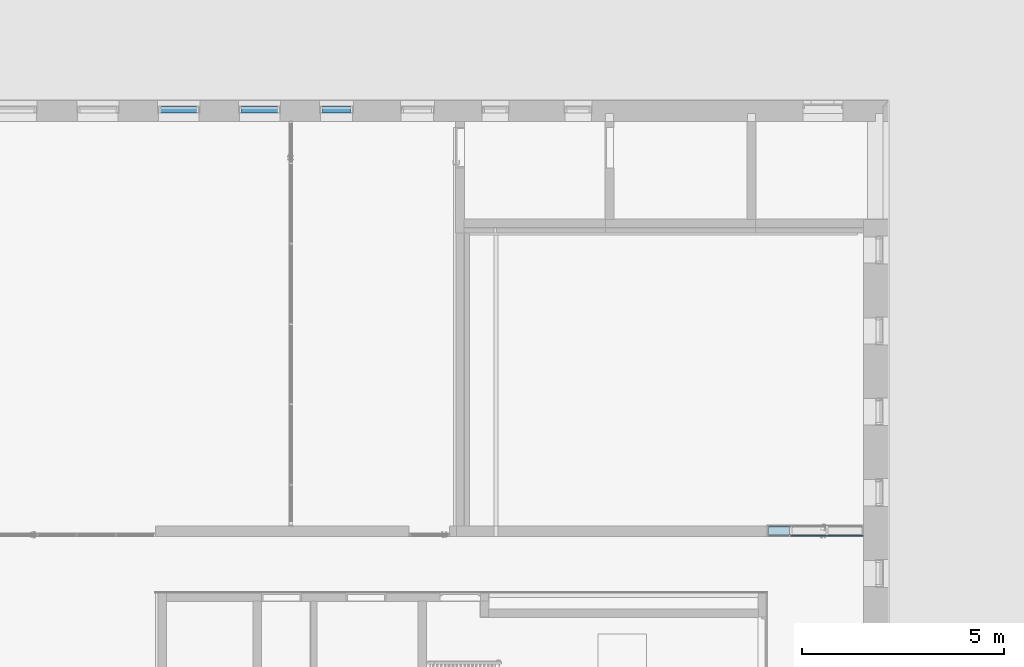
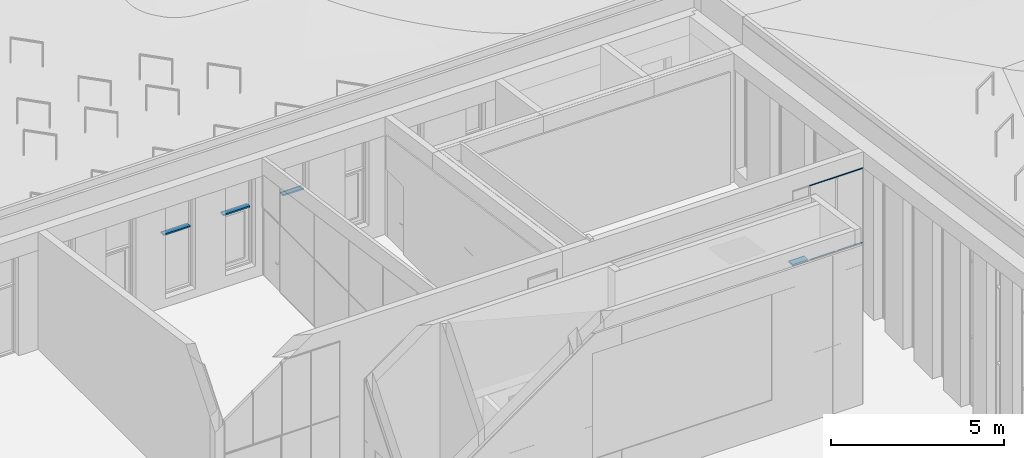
# One storey, part 91 of 246: 8 members, 5 elements without a shape of their own.
"""IFC2X3 building model written with IfcOpenShell, lengths in millimetres."""

import ifcopenshell
import ifcopenshell.guid

model = None  # the IFC model being written
_history = None  # IfcOwnerHistory: only IFC2X3 demands one
_inside = {}  # id of a spatial element -> (the spatial element, [elements in it])
_under = {}  # id of a project, library or spatial element -> (it, [spatial elements below it])
_declared = {}  # id of a project -> (the project, [libraries it declares])
_typed = {}  # id of a type object -> (the type object, [elements of that type])
_made_of = {}  # id of a material, layer set ... -> (it, [elements and type objects made of it])


def new_model(schema):
    """Start an empty IFC model of exactly this schema.

    Asked for "IFC4X3", IfcOpenShell would pick the latest addendum, in which some entities
    have other attributes; the version numbers below select the first issue.
    IFC2X3 requires an IfcOwnerHistory on every rooted entity: one is made here for all.
    """
    global model, _history
    if schema == "IFC4X3":
        model = ifcopenshell.file(schema_version=(4, 3, 0, 0))
    else:
        model = ifcopenshell.file(schema=schema)
    _inside.clear()
    _under.clear()
    _declared.clear()
    _typed.clear()
    _made_of.clear()
    _history = None
    if model.schema == "IFC2X3":
        org = make("IfcOrganization", Name="unknown")
        user = make(
            "IfcPersonAndOrganization",
            ThePerson=make("IfcPerson", FamilyName="unknown"),
            TheOrganization=org,
        )
        app = make(
            "IfcApplication",
            ApplicationDeveloper=org,
            Version="unknown",
            ApplicationFullName="unknown",
            ApplicationIdentifier="unknown",
        )
        _history = make(
            "IfcOwnerHistory",
            OwningUser=user,
            OwningApplication=app,
            ChangeAction="ADDED",
            CreationDate=0,
        )
    return model


def make(cls, **values):
    """One entity of the class cls with the attributes given. An attribute that is None is left unset."""
    return model.create_entity(
        cls, **{name: value for name, value in values.items() if value is not None}
    )


def entity(cls, *values):
    """Any entity or typed value of the class cls, its attributes in the order of the schema. None: left unset."""
    e = model.create_entity(cls)
    for i, value in enumerate(values):
        if value is not None:
            e[i] = value
    return e


def rooted(cls, **values):
    """An entity with a GlobalId (a new one), such as an element, a storey or a relation."""
    return make(cls, GlobalId=ifcopenshell.guid.new(), OwnerHistory=_history, **values)


def si_unit(unit_type, name, prefix=None):
    """IfcSIUnit, for example si_unit("LENGTHUNIT", "METRE", prefix="MILLI")."""
    return make("IfcSIUnit", UnitType=unit_type, Prefix=prefix, Name=name)


def converted_unit(unit_type, name, factor, base, dimensions=None, offset=None):
    """IfcConversionBasedUnit, such as the inch: factor (a typed value) times the base unit."""
    return make(
        "IfcConversionBasedUnit"
        if offset is None
        else "IfcConversionBasedUnitWithOffset",
        ConversionOffset=offset,
        Dimensions=None
        if dimensions is None
        else entity("IfcDimensionalExponents", *dimensions),
        UnitType=unit_type,
        Name=name,
        ConversionFactor=make(
            "IfcMeasureWithUnit", ValueComponent=factor, UnitComponent=base
        ),
    )


def derived_unit(unit_type, elements):
    """IfcDerivedUnit: a product of units, each with its exponent."""
    return make(
        "IfcDerivedUnit",
        Elements=[
            make("IfcDerivedUnitElement", Unit=unit, Exponent=power)
            for unit, power in elements
        ],
        UnitType=unit_type,
    )


def money_unit(currency):
    """IfcMonetaryUnit."""
    return make("IfcMonetaryUnit", Currency=currency)


def assignment(units):
    """IfcUnitAssignment: the units of a project."""
    return None if units is None else make("IfcUnitAssignment", Units=units)


def point(xyz):
    """IfcCartesianPoint."""
    return None if xyz is None else make("IfcCartesianPoint", Coordinates=xyz)


def direction(xyz):
    """IfcDirection."""
    return None if xyz is None else make("IfcDirection", DirectionRatios=xyz)


def frame(location, z_axis=None, x_axis=None):
    """IfcAxis2Placement3D, a coordinate frame: its origin and axes. An axis left out is left unset."""
    return make(
        "IfcAxis2Placement3D",
        Location=point(location),
        Axis=direction(z_axis),
        RefDirection=direction(x_axis),
    )


def origin_with_axes():
    """The frame at (0, 0, 0) with the z axis (0, 0, 1) and the x axis (1, 0, 0) written out."""
    return frame((0.0, 0.0, 0.0), z_axis=(0.0, 0.0, 1.0), x_axis=(1.0, 0.0, 0.0))


def place(relative_to, where):
    """IfcLocalPlacement: puts the frame where relative to a parent placement (None: the world)."""
    return make(
        "IfcLocalPlacement", PlacementRelTo=relative_to, RelativePlacement=where
    )


def context(
    kind, dimensions, precision=None, world=None, true_north=None, identifier=None
):
    """IfcGeometricRepresentationContext, for example the 3D "Model" context."""
    return make(
        "IfcGeometricRepresentationContext",
        ContextIdentifier=identifier,
        ContextType=kind,
        CoordinateSpaceDimension=dimensions,
        Precision=precision,
        WorldCoordinateSystem=world,
        TrueNorth=true_north,
    )


def subcontext(parent, identifier, kind, view, scale=None):
    """IfcGeometricRepresentationSubContext, for example "Body" below "Model"."""
    return make(
        "IfcGeometricRepresentationSubContext",
        ContextIdentifier=identifier,
        ContextType=kind,
        ParentContext=parent,
        TargetScale=scale,
        TargetView=view,
    )


def project(units=None, contexts=None):
    """IfcProject with its units and contexts."""
    return rooted(
        "IfcProject",
        Name="project",
        RepresentationContexts=contexts,
        UnitsInContext=assignment(units),
    )


def spatial(cls, under=None, at=None, **own):
    """A site, building, storey or space (cls), placed at a placement, below another one or the project."""
    s = rooted(cls, ObjectPlacement=at, **own)
    if under is not None:
        _under.setdefault(under.id(), (under, []))[1].append(s)
    return s


def faces_of(points, faces, orient=None, outer=None):
    """IfcFace entities. A face is a list of loops; a loop is a list of indices into points, from 0.

    orient and outer hold one flag for each loop. By default every Orientation is true, the
    first loop of a face is its IfcFaceOuterBound and the others are IfcFaceBound.
    """
    made = []
    for i, loops in enumerate(faces):
        bounds = []
        for j, loop in enumerate(loops):
            is_outer = j == 0 if outer is None else outer[i][j]
            bounds.append(
                make(
                    "IfcFaceOuterBound" if is_outer else "IfcFaceBound",
                    Bound=make("IfcPolyLoop", Polygon=[points[k] for k in loop]),
                    Orientation=True if orient is None else orient[i][j],
                )
            )
        made.append(make("IfcFace", Bounds=bounds))
    return made


def faceted_brep(points, faces, orient=None, outer=None, voids=None):
    """IfcFacetedBrep: a solid bounded by flat faces; with voids (closed shells), ...WithVoids."""
    shared = [point(p) for p in points]
    hull = make("IfcClosedShell", CfsFaces=faces_of(shared, faces, orient, outer))
    if voids is None:
        return make("IfcFacetedBrep", Outer=hull)
    return make(
        "IfcFacetedBrepWithVoids",
        Outer=hull,
        Voids=[
            make(cls, CfsFaces=faces_of(shared, fs, o, b)) for cls, fs, o, b in voids
        ],
    )


def shape(context_of_items, identifier, shape_type, items):
    """IfcShapeRepresentation: the items that make up one representation, for example the "Body"."""
    return make(
        "IfcShapeRepresentation",
        ContextOfItems=context_of_items,
        RepresentationIdentifier=identifier,
        RepresentationType=shape_type,
        Items=items,
    )


def material(Name=None, Category=None):
    """IfcMaterial."""
    return make("IfcMaterial", Name=Name, Category=Category)


def material_list(materials):
    """IfcMaterialList."""
    return make("IfcMaterialList", Materials=materials)


def made_of(thing, what):
    """Note that an element or type object is made of a material, layer set ...; save() writes the relation."""
    if what is not None:
        _made_of.setdefault(what.id(), (what, []))[1].append(thing)
    return thing


def type_object(cls, material=None, **own):
    """A type object (cls), such as IfcWallType, which elements share."""
    return made_of(rooted(cls, **own), material)


def element(
    cls,
    number,
    at=None,
    inside=None,
    cuts=None,
    type_object=None,
    material=None,
    context=None,
    identifier="Body",
    shape_type=None,
    held_by="IfcProductDefinitionShape",
    body=None,
    shapes=None,
    **own,
):
    """One element of the class cls, such as IfcWall. Its Tag is "e" and its number.

    at: its placement. inside: the storey or other place that contains it. cuts: it is an
    opening in that element (IfcRelVoidsElement). A single representation is given by context,
    identifier, shape_type and body (its items); several are given by shapes. held_by: the class
    of the entity that holds the representations. save() writes the other relations.
    """
    e = rooted(cls, Tag="e%d" % number, ObjectPlacement=at, **own)
    if body is not None:
        shapes = [shape(context, identifier, shape_type, body)]
    if shapes is not None:
        e.Representation = make(held_by, Representations=shapes)
    if inside is not None:
        _inside.setdefault(inside.id(), (inside, []))[1].append(e)
    if cuts is not None:
        rooted(
            "IfcRelVoidsElement", RelatingBuildingElement=cuts, RelatedOpeningElement=e
        )
    if type_object is not None:
        _typed.setdefault(type_object.id(), (type_object, []))[1].append(e)
    return made_of(e, material)


def aggregate(whole, parts):
    """IfcRelAggregates: a whole, such as a stair, and the parts it consists of."""
    return rooted("IfcRelAggregates", RelatingObject=whole, RelatedObjects=parts)


def save(model, path):
    """Write the relations noted so far, then the file.

    IfcRelAggregates (storeys below a building ...), IfcRelContainedInSpatialStructure (elements
    in a storey), IfcRelDefinesByType, IfcRelAssociatesMaterial and IfcRelDeclares: one each for
    every whole, place, type object, material and project.
    """
    for whole, parts in _under.values():
        aggregate(whole, parts)
    for where, things in _inside.values():
        rooted(
            "IfcRelContainedInSpatialStructure",
            RelatedElements=things,
            RelatingStructure=where,
        )
    for kind, things in _typed.values():
        rooted("IfcRelDefinesByType", RelatedObjects=things, RelatingType=kind)
    for what, things in _made_of.values():
        rooted("IfcRelAssociatesMaterial", RelatedObjects=things, RelatingMaterial=what)
    for by, libraries in _declared.values():
        rooted("IfcRelDeclares", RelatingContext=by, RelatedDefinitions=libraries)
    model.write(path)


model = new_model("IFC2X3")

# Units and contexts
model_context = context("Model", 3, precision=0.01, world=origin_with_axes(), true_north=direction((0.0, 1.0)))
body_context = subcontext(model_context, "Body", "Model", "MODEL_VIEW")
ifc_project = project(units=[si_unit("LENGTHUNIT", "METRE", prefix="MILLI"), si_unit("AREAUNIT", "SQUARE_METRE"), si_unit("VOLUMEUNIT", "CUBIC_METRE"), converted_unit("PLANEANGLEUNIT", "DEGREE", entity("IfcPlaneAngleMeasure", 0.0174532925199), si_unit("PLANEANGLEUNIT", "RADIAN"), dimensions=[0, 0, 0, 0, 0, 0, 0]), si_unit("SOLIDANGLEUNIT", "STERADIAN"), money_unit("EUR"), converted_unit("TIMEUNIT", "Year", entity("IfcTimeMeasure", 31556926.0), si_unit("TIMEUNIT", "SECOND"), dimensions=[0, 0, 1, 0, 0, 0, 0]), si_unit("MASSUNIT", "GRAM", prefix="KILO"), si_unit("THERMODYNAMICTEMPERATUREUNIT", "DEGREE_CELSIUS"), si_unit("LUMINOUSINTENSITYUNIT", "LUMEN"), si_unit("ENERGYUNIT", "JOULE", prefix="MEGA"), derived_unit("THERMALCONDUCTANCEUNIT", [(si_unit("POWERUNIT", "WATT"), 1), (si_unit("LENGTHUNIT", "METRE"), -1), (si_unit("THERMODYNAMICTEMPERATUREUNIT", "KELVIN"), -1)]), derived_unit("SPECIFICHEATCAPACITYUNIT", [(si_unit("ENERGYUNIT", "JOULE"), 1), (si_unit("MASSUNIT", "GRAM", prefix="KILO"), -1), (si_unit("THERMODYNAMICTEMPERATUREUNIT", "KELVIN"), -1)]), derived_unit("MASSDENSITYUNIT", [(si_unit("MASSUNIT", "GRAM", prefix="KILO"), 1), (si_unit("VOLUMEUNIT", "CUBIC_METRE"), -1)])], contexts=[model_context])

# Site, building, storey
site_placement = place(None, origin_with_axes())
site = spatial("IfcSite", under=ifc_project, at=site_placement, Name="L.Koidula tn 11b", CompositionType="ELEMENT")
building_placement = place(site_placement, origin_with_axes())
building = spatial("IfcBuilding", under=site, at=building_placement, Name="Rakvere Riigigümnaasium", CompositionType="ELEMENT")
storey_placement = place(building_placement, origin_with_axes())
storey = spatial("IfcBuildingStorey", under=building, at=storey_placement, Name="1.korrus 0,00", CompositionType="ELEMENT", Elevation=0.0)

# Curtain wall, member
curtain_wall_type = type_object("IfcCurtainWallType", Name="Curtain Wall Type", PredefinedType="NOTDEFINED")
curtain_wall_1_placement = place(storey_placement, frame((32069.763958, 71934.4519938, 400.0), z_axis=(0.0, 0.0, 1.0), x_axis=(1.0, 0.0, 0.0)))
curtain_wall_1 = element("IfcCurtainWall", 1, at=curtain_wall_1_placement, inside=storey, type_object=curtain_wall_type, Name="KLF-08-06")
ifc_material_1 = material(Name="Alumiiniumprofiil (RAL 7021)")
member_type_1 = type_object("IfcMemberType", Name="Transom Frame 50 x 170", PredefinedType="MULLION")
member_1_placement = place(curtain_wall_1_placement, frame((-500.007691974, 0.0, 2000.00007713), z_axis=(1.0, 0.0, 0.0), x_axis=(0.0, 0.0, 1.0)))
member_1 = element("IfcMember", 2, at=member_1_placement, type_object=member_type_1, material=ifc_material_1, Name="KLF-08-23-Profiilid", ObjectType="MULLION", context=body_context, shape_type="Brep", body=[
    faceted_brep([(-12.0, 26.0, 950.015387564), (-12.0, -26.0, 950.015388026), (-25.0, -26.0, 950.015388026), (-25.0, -46.0, 950.015388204), (25.0, -46.0, 950.015388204), (25.0, -26.0, 950.015388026), (12.0, -26.0, 950.015388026), (12.0, 26.0, 950.015387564), (25.0, 26.0, 950.015387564), (25.0, 124.0, 950.015386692), (-25.0, 124.0, 950.015386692), (-25.0, 26.0, 950.015387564), (-12.0, 26.0, 50.0000001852), (-12.0, -26.0, 49.9999998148), (-25.0, -26.0, 49.9999998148), (-25.0, -46.0, 49.9999996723), (25.0, -46.0, 49.9999996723), (25.0, -26.0, 49.9999998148), (12.0, -26.0, 49.9999998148), (12.0, 26.0, 50.0000001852), (25.0, 26.0, 50.0000001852), (25.0, 124.0, 50.0000008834), (-25.0, 124.0, 50.0000008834), (-25.0, 26.0, 50.0000001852)], [[[0, 1, 2, 3, 4, 5, 6, 7, 8, 9, 10, 11]], [[0, 12, 13, 1]], [[1, 13, 14, 2]], [[14, 15, 3, 2]], [[4, 3, 15, 16]], [[17, 5, 4, 16]], [[5, 17, 18, 6]], [[7, 6, 18, 19]], [[8, 7, 19, 20]], [[8, 20, 21, 9]], [[10, 9, 21, 22]], [[11, 10, 22, 23]], [[11, 23, 12, 0]], [[13, 12, 23, 22, 21, 20, 19, 18, 17, 16, 15, 14]]]),
])
aggregate(curtain_wall_1, [member_1])

curtain_wall_2_placement = place(storey_placement, frame((30069.5242165, 71934.4519938, 300.0), z_axis=(0.0, 0.0, 1.0), x_axis=(1.0, 0.0, 0.0)))
curtain_wall_2 = element("IfcCurtainWall", 3, at=curtain_wall_2_placement, inside=storey, type_object=curtain_wall_type, Name="KLF-08-05")
member_2_placement = place(curtain_wall_2_placement, frame((-499.988788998, 0.0, 2100.00007713), z_axis=(1.0, 0.0, 0.0), x_axis=(0.0, 0.0, 1.0)))
member_2 = element("IfcMember", 4, at=member_2_placement, type_object=member_type_1, material=ifc_material_1, Name="KLF-08-89-Profiilid", ObjectType="MULLION", context=body_context, shape_type="Brep", body=[
    faceted_brep([(-12.0, 26.0, 949.977577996), (-12.0, -26.0, 949.977577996), (-25.0, -26.0, 949.977577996), (-25.0, -46.0, 949.977577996), (25.0, -46.0, 949.977577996), (25.0, -26.0, 949.977577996), (12.0, -26.0, 949.977577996), (12.0, 26.0, 949.977577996), (25.0, 26.0, 949.977577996), (25.0, 124.0, 949.977577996), (-25.0, 124.0, 949.977577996), (-25.0, 26.0, 949.977577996), (-12.0, 26.0, 50.0), (-12.0, -26.0, 50.0), (-25.0, -26.0, 50.0), (-25.0, -46.0, 50.0), (25.0, -46.0, 50.0), (25.0, -26.0, 50.0), (12.0, -26.0, 50.0), (12.0, 26.0, 50.0), (25.0, 26.0, 50.0), (25.0, 124.0, 50.0), (-25.0, 124.0, 50.0), (-25.0, 26.0, 50.0)], [[[0, 1, 2, 3, 4, 5, 6, 7, 8, 9, 10, 11]], [[0, 12, 13, 1]], [[1, 13, 14, 2]], [[14, 15, 3, 2]], [[4, 3, 15, 16]], [[17, 5, 4, 16]], [[5, 17, 18, 6]], [[7, 6, 18, 19]], [[8, 7, 19, 20]], [[8, 20, 21, 9]], [[10, 9, 21, 22]], [[11, 10, 22, 23]], [[11, 23, 12, 0]], [[13, 12, 23, 22, 21, 20, 19, 18, 17, 16, 15, 14]]]),
])
aggregate(curtain_wall_2, [member_2])

curtain_wall_3_placement = place(storey_placement, frame((33969.5426693, 71934.5046172, 450.0), z_axis=(0.0, 0.0, 1.0), x_axis=(1.0, 0.0, 0.0)))
curtain_wall_3 = element("IfcCurtainWall", 5, at=curtain_wall_3_placement, inside=storey, type_object=curtain_wall_type, Name="KLF-08-07")
member_3_placement = place(curtain_wall_3_placement, frame((-400.003572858, 0.0, 1950.00010267), z_axis=(1.0, 0.0, 0.0), x_axis=(0.0, 0.0, 1.0)))
member_3 = element("IfcMember", 6, at=member_3_placement, type_object=member_type_1, material=ifc_material_1, Name="KLF-08-34-Profiilid", ObjectType="MULLION", context=body_context, shape_type="Brep", body=[
    faceted_brep([(-12.0, 26.0, 750.007138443), (-12.0, -26.0, 750.007138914), (-25.0, -26.0, 750.007138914), (-25.0, -46.0, 750.007139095), (25.0, -46.0, 750.007139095), (25.0, -26.0, 750.007138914), (12.0, -26.0, 750.007138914), (12.0, 26.0, 750.007138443), (25.0, 26.0, 750.007138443), (25.0, 124.0, 750.007137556), (-25.0, 124.0, 750.007137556), (-25.0, 26.0, 750.007138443), (-12.0, 26.0, 50.0), (-12.0, -26.0, 50.0), (-25.0, -26.0, 50.0), (-25.0, -46.0, 50.0), (25.0, -46.0, 50.0), (25.0, -26.0, 50.0), (12.0, -26.0, 50.0), (12.0, 26.0, 50.0), (25.0, 26.0, 50.0), (25.0, 124.0, 50.0), (-25.0, 124.0, 50.0), (-25.0, 26.0, 50.0)], [[[0, 1, 2, 3, 4, 5, 6, 7, 8, 9, 10, 11]], [[0, 12, 13, 1]], [[1, 13, 14, 2]], [[14, 15, 3, 2]], [[4, 3, 15, 16]], [[17, 5, 4, 16]], [[5, 17, 18, 6]], [[7, 6, 18, 19]], [[8, 7, 19, 20]], [[8, 20, 21, 9]], [[10, 9, 21, 22]], [[11, 10, 22, 23]], [[11, 23, 12, 0]], [[13, 12, 23, 22, 21, 20, 19, 18, 17, 16, 15, 14]]]),
])
aggregate(curtain_wall_3, [member_3])

# Curtain wall, members
curtain_wall_4_placement = place(storey_placement, frame((46459.9999921, 61346.4546496, -4.47035262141e-05), z_axis=(0.0, 0.0, 1.0), x_axis=(1.0, 0.0, 0.0)))
curtain_wall_4 = element("IfcCurtainWall", 7, at=curtain_wall_4_placement, inside=storey, type_object=curtain_wall_type, Name="SKLF-04")
ifc_material_2 = material(Name="Klaasvill")
ifc_material_3 = material(Name="Teras RAL7012")
ifc_material_list_1 = material_list([ifc_material_2, ifc_material_3])
member_type_2 = type_object("IfcMemberType", Name="Siseklaasfassaad-Doubleline-Servaraam-2_30x26 30 x 15", PredefinedType="MULLION")
member_4_placement = place(curtain_wall_4_placement, frame((-1260.00000095, 0.0, 2400.0000447), z_axis=(1.0, 0.0, 0.0), x_axis=(0.0, 0.0, 1.0)))
member_4 = element("IfcMember", 8, at=member_4_placement, type_object=member_type_2, material=ifc_material_list_1, Name="P-SKLF-38-raam", ObjectType="MULLION", context=body_context, shape_type="Brep", body=[
    faceted_brep([(8.35001923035, -16.999999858, 8.35001923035), (8.35001923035, -16.999999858, 891.64998077), (2.00001916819, -16.999999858, 897.999980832), (2.00001916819, -16.999999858, 2.00001916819), (8.35001923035, 3.01614428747, 8.35001923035), (8.35001923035, 3.01614428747, 891.64998077), (2.00001916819, 3.01614428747, 897.999980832), (2.00001916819, 3.01614428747, 2.00001916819)], [[[0, 1, 2, 3]], [[4, 5, 1, 0]], [[2, 1, 5, 6]], [[3, 2, 6, 7]], [[3, 7, 4, 0]], [[7, 6, 5, 4]]]),
    faceted_brep([(25.004489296, 1.03075035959, 25.004489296), (25.004489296, 1.03075035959, 874.995510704), (24.987414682, 3.01614444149, 875.012585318), (24.987414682, 3.01614444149, 24.987414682), (25.742237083, 0.293002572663, 25.742237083), (25.742237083, 0.293002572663, 874.257762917), (26.7500193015, 0.0229681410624, 873.249980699), (27.75780152, 0.293002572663, 872.24219848), (28.4955493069, 1.03075035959, 871.504450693), (28.7655837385, 2.03853257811, 871.234416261), (28.5126239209, 3.01614444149, 871.487376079), (28.5126239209, 3.01614444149, 28.5126239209), (28.7655837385, 2.03853257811, 28.7655837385), (28.4955493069, 1.03075035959, 28.4955493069), (27.75780152, 0.293002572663, 27.75780152), (26.7500193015, 0.0229681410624, 26.7500193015)], [[[0, 1, 2, 3]], [[4, 5, 1, 0]], [[2, 1, 5, 6, 7, 8, 9, 10]], [[3, 2, 10, 11]], [[3, 11, 12, 13, 14, 15, 4, 0]], [[15, 6, 5, 4]], [[14, 7, 6, 15]], [[13, 8, 7, 14]], [[12, 9, 8, 13]], [[11, 10, 9, 12]]]),
    faceted_brep([(30.0000193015, -20.0, 30.0000193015), (30.0000193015, -20.0, 869.999980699), (0.0, -20.0, 900.0), (0.0, -20.0, 0.0), (30.0000193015, -17.0, 30.0000193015), (30.0000193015, -17.0, 869.999980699), (8.35001923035, -16.999999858, 891.64998077), (2.00001930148, -17.0, 897.999980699), (2.00001930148, 3.01614444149, 897.999980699), (8.35001923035, 3.01614428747, 891.64998077), (24.987414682, 3.01614444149, 875.012585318), (28.5126239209, 3.01614444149, 871.487376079), (30.0000193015, 3.01614444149, 869.999980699), (30.0000193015, 6.0, 869.999980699), (0.0, 6.0, 900.0), (0.0, 6.0, 0.0), (30.0000193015, 6.0, 30.0000193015), (30.0000193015, 3.01614444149, 30.0000193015), (28.5126239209, 3.01614444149, 28.5126239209), (24.987414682, 3.01614444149, 24.987414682), (8.35001923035, 3.01614428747, 8.35001923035), (2.00001930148, 3.01614444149, 2.00001930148), (2.00001930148, -17.0, 2.00001930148), (8.35001923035, -16.999999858, 8.35001923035)], [[[0, 1, 2, 3]], [[4, 5, 1, 0]], [[2, 1, 5, 6, 7, 8, 9, 10, 11, 12, 13, 14]], [[3, 2, 14, 15]], [[3, 15, 16, 17, 18, 19, 20, 21, 22, 23, 4, 0]], [[23, 6, 5, 4]], [[22, 7, 6, 23]], [[21, 8, 7, 22]], [[20, 9, 8, 21]], [[19, 10, 9, 20]], [[18, 11, 10, 19]], [[17, 12, 11, 18]], [[16, 13, 12, 17]], [[15, 14, 13, 16]]]),
])
member_5_placement = place(curtain_wall_4_placement, frame((-360.00000095, 0.0, 2400.0000447), z_axis=(1.0, 0.0, 0.0), x_axis=(0.0, 0.0, 1.0)))
member_5 = element("IfcMember", 9, at=member_5_placement, type_object=member_type_2, material=ifc_material_list_1, Name="P-SKLF-41-raam", ObjectType="MULLION", context=body_context, shape_type="Brep", body=[
    faceted_brep([(8.35001923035, -16.999999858, 8.35001923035), (8.35001923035, -16.999999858, 869.999983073), (2.00001916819, -16.999999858, 869.999983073), (2.00001916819, -16.999999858, 2.00001916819), (8.35001923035, 3.01614428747, 8.35001923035), (8.35001923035, 3.01614428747, 869.999983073), (2.00001916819, 3.01614428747, 869.999983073), (2.00001916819, 3.01614428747, 2.00001916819)], [[[0, 1, 2, 3]], [[4, 5, 1, 0]], [[2, 1, 5, 6]], [[3, 2, 6, 7]], [[3, 7, 4, 0]], [[7, 6, 5, 4]]]),
    faceted_brep([(25.004489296, 1.03075035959, 25.004489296), (25.004489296, 1.03075035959, 869.999983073), (24.987414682, 3.01614444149, 869.999983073), (24.987414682, 3.01614444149, 24.987414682), (25.742237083, 0.293002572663, 25.742237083), (25.742237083, 0.293002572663, 869.999983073), (26.7500193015, 0.0229681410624, 869.999983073), (27.75780152, 0.293002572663, 869.999983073), (28.4955493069, 1.03075035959, 869.999983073), (28.7655837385, 2.03853257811, 869.999983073), (28.5126239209, 3.01614444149, 869.999983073), (28.5126239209, 3.01614444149, 28.5126239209), (28.7655837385, 2.03853257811, 28.7655837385), (28.4955493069, 1.03075035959, 28.4955493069), (27.75780152, 0.293002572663, 27.75780152), (26.7500193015, 0.0229681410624, 26.7500193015)], [[[0, 1, 2, 3]], [[4, 5, 1, 0]], [[2, 1, 5, 6, 7, 8, 9, 10]], [[3, 2, 10, 11]], [[3, 11, 12, 13, 14, 15, 4, 0]], [[15, 6, 5, 4]], [[14, 7, 6, 15]], [[13, 8, 7, 14]], [[12, 9, 8, 13]], [[11, 10, 9, 12]]]),
    faceted_brep([(30.0000193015, -20.0, 30.0000193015), (30.0000193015, -20.0, 869.999983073), (0.0, -20.0, 869.999983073), (0.0, -20.0, 0.0), (30.0000193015, -17.0, 30.0000193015), (30.0000193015, -17.0, 869.999983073), (8.35001923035, -16.999999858, 869.999983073), (2.00001930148, -17.0, 869.999983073), (2.00001930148, 3.01614444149, 869.999983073), (8.35001923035, 3.01614428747, 869.999983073), (24.987414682, 3.01614444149, 869.999983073), (28.5126239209, 3.01614444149, 869.999983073), (30.0000193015, 3.01614444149, 869.999983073), (30.0000193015, 6.0, 869.999983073), (0.0, 6.0, 869.999983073), (0.0, 6.0, 0.0), (30.0000193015, 6.0, 30.0000193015), (30.0000193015, 3.01614444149, 30.0000193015), (28.5126239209, 3.01614444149, 28.5126239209), (24.987414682, 3.01614444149, 24.987414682), (8.35001923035, 3.01614428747, 8.35001923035), (2.00001930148, 3.01614444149, 2.00001930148), (2.00001930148, -17.0, 2.00001930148), (8.35001923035, -16.999999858, 8.35001923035)], [[[0, 1, 2, 3]], [[4, 5, 1, 0]], [[2, 1, 5, 6, 7, 8, 9, 10, 11, 12, 13, 14]], [[3, 2, 14, 15]], [[3, 15, 16, 17, 18, 19, 20, 21, 22, 23, 4, 0]], [[23, 6, 5, 4]], [[22, 7, 6, 23]], [[21, 8, 7, 22]], [[20, 9, 8, 21]], [[19, 10, 9, 20]], [[18, 11, 10, 19]], [[17, 12, 11, 18]], [[16, 13, 12, 17]], [[15, 14, 13, 16]]]),
])
member_type_3 = type_object("IfcMemberType", Name="Boundary Frame 30 x 15", PredefinedType="MULLION")
member_6_placement = place(curtain_wall_4_placement, frame((-360.00000095, 0.0, 5050.0000447), z_axis=(1.0, 0.0, 0.0), x_axis=(0.0, 0.0, 1.0)))
member_6 = element("IfcMember", 10, at=member_6_placement, type_object=member_type_3, material=ifc_material_list_1, Name="P-SKLF-39-raam", ObjectType="MULLION", context=body_context, shape_type="Brep", body=[
    faceted_brep([(-2.00001916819, -16.999999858, 0.0), (-2.00001916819, -16.999999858, 897.999983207), (-8.35001923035, -16.999999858, 891.649983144), (-8.35001923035, -16.999999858, 0.0), (-2.00001916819, 3.01614428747, 0.0), (-2.00001916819, 3.01614428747, 897.999983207), (-8.35001923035, 3.01614428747, 891.649983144), (-8.35001923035, 3.01614428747, 0.0)], [[[0, 1, 2, 3]], [[4, 5, 1, 0]], [[1, 5, 6, 2]], [[3, 2, 6, 7]], [[0, 3, 7, 4]], [[7, 6, 5, 4]]]),
    faceted_brep([(-24.987414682, 3.01614444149, 0.0), (-24.987414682, 3.01614444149, 875.012587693), (-25.004489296, 1.03075035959, 874.995513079), (-25.004489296, 1.03075035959, 0.0), (-28.5126239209, 3.01614444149, 0.0), (-28.5126239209, 3.01614444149, 871.487378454), (-28.7655837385, 2.03853257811, 871.234418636), (-28.4955493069, 1.03075035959, 871.504453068), (-27.75780152, 0.293002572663, 872.242200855), (-26.7500193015, 0.0229681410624, 873.249983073), (-25.742237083, 0.293002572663, 874.257765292), (-25.742237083, 0.293002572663, 0.0), (-26.7500193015, 0.0229681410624, 0.0), (-27.75780152, 0.293002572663, 0.0), (-28.4955493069, 1.03075035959, 0.0), (-28.7655837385, 2.03853257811, 0.0)], [[[0, 1, 2, 3]], [[4, 5, 1, 0]], [[1, 5, 6, 7, 8, 9, 10, 2]], [[3, 2, 10, 11]], [[0, 3, 11, 12, 13, 14, 15, 4]], [[15, 6, 5, 4]], [[14, 7, 6, 15]], [[13, 8, 7, 14]], [[12, 9, 8, 13]], [[11, 10, 9, 12]]]),
    faceted_brep([(0.0, -20.0, 0.0), (0.0, -20.0, 900.000002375), (-30.0000193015, -20.0, 869.999983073), (-30.0000193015, -20.0, 0.0), (0.0, 6.0, 0.0), (0.0, 6.0, 900.000002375), (-30.0000193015, 6.0, 869.999983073), (-30.0000193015, 3.01614444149, 869.999983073), (-28.5126239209, 3.01614444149, 871.487378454), (-24.987414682, 3.01614444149, 875.012587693), (-8.35001923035, 3.01614428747, 891.649983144), (-2.00001930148, 3.01614444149, 897.999983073), (-2.00001930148, -17.0, 897.999983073), (-8.35001923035, -16.999999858, 891.649983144), (-30.0000193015, -17.0, 869.999983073), (-30.0000193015, -17.0, 0.0), (-8.35001923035, -16.999999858, 0.0), (-2.00001930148, -17.0, 0.0), (-2.00001930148, 3.01614444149, 0.0), (-8.35001923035, 3.01614428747, 0.0), (-24.987414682, 3.01614444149, 0.0), (-28.5126239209, 3.01614444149, 0.0), (-30.0000193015, 3.01614444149, 0.0), (-30.0000193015, 6.0, 0.0)], [[[0, 1, 2, 3]], [[4, 5, 1, 0]], [[1, 5, 6, 7, 8, 9, 10, 11, 12, 13, 14, 2]], [[3, 2, 14, 15]], [[0, 3, 15, 16, 17, 18, 19, 20, 21, 22, 23, 4]], [[23, 6, 5, 4]], [[22, 7, 6, 23]], [[21, 8, 7, 22]], [[20, 9, 8, 21]], [[19, 10, 9, 20]], [[18, 11, 10, 19]], [[17, 12, 11, 18]], [[16, 13, 12, 17]], [[15, 14, 13, 16]]]),
])
member_7_placement = place(curtain_wall_4_placement, frame((-1260.00000095, 0.0, 5050.0000447), z_axis=(1.0, 0.0, 0.0), x_axis=(0.0, 0.0, 1.0)))
member_7 = element("IfcMember", 11, at=member_7_placement, type_object=member_type_3, material=ifc_material_list_1, Name="P-SKLF-40-raam", ObjectType="MULLION", context=body_context, shape_type="Brep", body=[
    faceted_brep([(-2.00001916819, -16.999999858, 0.0), (-2.00001916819, -16.999999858, 900.0), (-8.35001923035, -16.999999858, 900.0), (-8.35001923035, -16.999999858, 0.0), (-2.00001916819, 3.01614428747, 0.0), (-2.00001916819, 3.01614428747, 900.0), (-8.35001923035, 3.01614428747, 900.0), (-8.35001923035, 3.01614428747, 0.0)], [[[0, 1, 2, 3]], [[4, 5, 1, 0]], [[1, 5, 6, 2]], [[3, 2, 6, 7]], [[0, 3, 7, 4]], [[7, 6, 5, 4]]]),
    faceted_brep([(-24.987414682, 3.01614444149, 0.0), (-24.987414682, 3.01614444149, 900.0), (-25.004489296, 1.03075035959, 900.0), (-25.004489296, 1.03075035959, 0.0), (-28.5126239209, 3.01614444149, 0.0), (-28.5126239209, 3.01614444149, 900.0), (-28.7655837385, 2.03853257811, 900.0), (-28.4955493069, 1.03075035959, 900.0), (-27.75780152, 0.293002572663, 900.0), (-26.7500193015, 0.0229681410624, 900.0), (-25.742237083, 0.293002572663, 900.0), (-25.742237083, 0.293002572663, 0.0), (-26.7500193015, 0.0229681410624, 0.0), (-27.75780152, 0.293002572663, 0.0), (-28.4955493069, 1.03075035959, 0.0), (-28.7655837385, 2.03853257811, 0.0)], [[[0, 1, 2, 3]], [[4, 5, 1, 0]], [[1, 5, 6, 7, 8, 9, 10, 2]], [[3, 2, 10, 11]], [[0, 3, 11, 12, 13, 14, 15, 4]], [[15, 6, 5, 4]], [[14, 7, 6, 15]], [[13, 8, 7, 14]], [[12, 9, 8, 13]], [[11, 10, 9, 12]]]),
    faceted_brep([(0.0, -20.0, 0.0), (0.0, -20.0, 900.0), (-30.0000193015, -20.0, 900.0), (-30.0000193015, -20.0, 0.0), (0.0, 6.0, 0.0), (0.0, 6.0, 900.0), (-30.0000193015, 6.0, 900.0), (-30.0000193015, 3.01614444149, 900.0), (-28.5126239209, 3.01614444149, 900.0), (-24.987414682, 3.01614444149, 900.0), (-8.35001923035, 3.01614428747, 900.0), (-2.00001930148, 3.01614444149, 900.0), (-2.00001930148, -17.0, 900.0), (-8.35001923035, -16.999999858, 900.0), (-30.0000193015, -17.0, 900.0), (-30.0000193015, -17.0, 0.0), (-8.35001923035, -16.999999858, 0.0), (-2.00001930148, -17.0, 0.0), (-2.00001930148, 3.01614444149, 0.0), (-8.35001923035, 3.01614428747, 0.0), (-24.987414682, 3.01614444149, 0.0), (-28.5126239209, 3.01614444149, 0.0), (-30.0000193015, 3.01614444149, 0.0), (-30.0000193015, 6.0, 0.0)], [[[0, 1, 2, 3]], [[4, 5, 1, 0]], [[1, 5, 6, 7, 8, 9, 10, 11, 12, 13, 14, 2]], [[3, 2, 14, 15]], [[0, 3, 15, 16, 17, 18, 19, 20, 21, 22, 23, 4]], [[23, 6, 5, 4]], [[22, 7, 6, 23]], [[21, 8, 7, 22]], [[20, 9, 8, 21]], [[19, 10, 9, 20]], [[18, 11, 10, 19]], [[17, 12, 11, 18]], [[16, 13, 12, 17]], [[15, 14, 13, 16]]]),
])
aggregate(curtain_wall_4, [member_4, member_6, member_7, member_5])

# Curtain wall, member
curtain_wall_5_placement = place(storey_placement, frame((46549.9999923, 61580.5357918, -4.47035262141e-05), z_axis=(0.0, 0.0, 1.0), x_axis=(1.0, 0.0, 0.0)))
curtain_wall_5 = element("IfcCurtainWall", 12, at=curtain_wall_5_placement, inside=storey, type_object=curtain_wall_type, Name="SKLF-05")
ifc_material_4 = material(Name="Puit")
ifc_material_list_2 = material_list([ifc_material_4, ifc_material_2, ifc_material_3])
member_type_4 = type_object("IfcMemberType", Name="Transom Frame 60 x 20", PredefinedType="MULLION")
member_8_placement = place(curtain_wall_5_placement, frame((-1930.00000119, 0.0, 2400.0000447), z_axis=(1.0, 0.0, 0.0), x_axis=(0.0, 0.0, 1.0)))
member_8 = element("IfcMember", 13, at=member_8_placement, type_object=member_type_4, material=ifc_material_list_2, Name="P-SKLF-53-raam", ObjectType="MULLION", context=body_context, shape_type="Brep", body=[
    faceted_brep([(-30.0000193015, 214.0, 30.0000193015), (-30.0000193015, 214.0, 549.999980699), (30.0000203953, 214.0, 549.999980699), (30.0000203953, 214.0, 30.0000193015), (-30.0000193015, 5.99999883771, 30.0000193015), (-30.0000193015, 5.99999883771, 549.999980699), (5.46888482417e-07, 5.99999883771, 549.999980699), (30.0000203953, 5.99999883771, 549.999980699), (30.0000203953, 5.99999883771, 30.0000193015), (5.46888482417e-07, 5.99999883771, 30.0000193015)], [[[0, 1, 2, 3]], [[4, 5, 1, 0]], [[2, 1, 5, 6, 7]], [[3, 2, 7, 8]], [[3, 8, 9, 4, 0]], [[9, 6, 5, 4]], [[8, 7, 6, 9]]]),
    faceted_brep([(8.35001923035, -16.999999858, 30.0000193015), (8.35001923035, -16.999999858, 549.999980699), (2.00001916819, -16.999999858, 549.999980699), (2.00001916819, -16.999999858, 30.0000193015), (8.35001923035, 3.01614428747, 30.0000193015), (8.35001923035, 3.01614428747, 549.999980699), (2.00001916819, 3.01614473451, 549.999980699), (2.00001916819, 3.01614473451, 30.0000193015)], [[[0, 1, 2, 3]], [[4, 5, 1, 0]], [[2, 1, 5, 6]], [[3, 2, 6, 7]], [[3, 7, 4, 0]], [[7, 6, 5, 4]]]),
    faceted_brep([(24.7344548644, 2.03853257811, 30.0000193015), (24.7344548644, 2.03853257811, 549.999980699), (28.5126239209, 3.01614444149, 549.999980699), (28.5126239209, 3.01614444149, 30.0000193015), (25.004489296, 1.03075035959, 30.0000193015), (25.004489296, 1.03075035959, 549.999980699), (25.742237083, 0.293002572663, 549.999980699), (26.7500193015, 0.0229681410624, 549.999980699), (27.75780152, 0.293002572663, 549.999980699), (28.4955493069, 1.03075035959, 549.999980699), (28.7655837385, 2.03853257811, 549.999980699), (28.7655837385, 2.03853257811, 30.0000193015), (28.4955493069, 1.03075035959, 30.0000193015), (27.75780152, 0.293002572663, 30.0000193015), (26.7500193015, 0.0229681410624, 30.0000193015), (25.742237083, 0.293002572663, 30.0000193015)], [[[0, 1, 2, 3]], [[4, 5, 1, 0]], [[2, 1, 5, 6, 7, 8, 9, 10]], [[3, 2, 10, 11]], [[3, 11, 12, 13, 14, 15, 4, 0]], [[15, 6, 5, 4]], [[14, 7, 6, 15]], [[13, 8, 7, 14]], [[12, 9, 8, 13]], [[11, 10, 9, 12]]]),
    faceted_brep([(-2.00001916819, -16.999999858, 30.0000193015), (-2.00001916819, -16.999999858, 549.999980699), (-8.35001923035, -16.999999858, 549.999980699), (-8.35001923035, -16.999999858, 30.0000193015), (-2.00001916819, 3.01614428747, 30.0000193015), (-2.00001916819, 3.01614428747, 549.999980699), (-8.35001923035, 3.01614428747, 549.999980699), (-8.35001923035, 3.01614428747, 30.0000193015)], [[[0, 1, 2, 3]], [[4, 5, 1, 0]], [[2, 1, 5, 6]], [[3, 2, 6, 7]], [[3, 7, 4, 0]], [[7, 6, 5, 4]]]),
    faceted_brep([(-28.4955493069, 1.03075035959, 30.0000193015), (-28.4955493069, 1.03075035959, 549.999980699), (-28.5126239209, 3.01614444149, 549.999980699), (-28.5126239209, 3.01614444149, 30.0000193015), (-27.75780152, 0.293002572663, 30.0000193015), (-27.75780152, 0.293002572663, 549.999980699), (-26.7500193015, 0.0229681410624, 549.999980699), (-25.742237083, 0.293002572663, 549.999980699), (-25.004489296, 1.03075035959, 549.999980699), (-24.7344548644, 2.03853257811, 549.999980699), (-24.987414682, 3.01614444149, 549.999980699), (-24.987414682, 3.01614444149, 30.0000193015), (-24.7344548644, 2.03853257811, 30.0000193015), (-25.004489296, 1.03075035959, 30.0000193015), (-25.742237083, 0.293002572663, 30.0000193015), (-26.7500193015, 0.0229681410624, 30.0000193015)], [[[0, 1, 2, 3]], [[4, 5, 1, 0]], [[2, 1, 5, 6, 7, 8, 9, 10]], [[3, 2, 10, 11]], [[3, 11, 12, 13, 14, 15, 4, 0]], [[15, 6, 5, 4]], [[14, 7, 6, 15]], [[13, 8, 7, 14]], [[12, 9, 8, 13]], [[11, 10, 9, 12]]]),
    faceted_brep([(0.0, 5.9999997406, 30.0000193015), (0.0, 5.9999997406, 549.999980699), (30.0000193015, 5.9999997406, 549.999980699), (30.0000193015, 5.9999997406, 30.0000193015), (0.0, -20.0, 30.0000193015), (0.0, -20.0, 549.999980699), (30.0000193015, -20.0, 549.999980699), (30.0000193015, -16.999999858, 549.999980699), (8.35001923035, -16.999999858, 549.999980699), (2.00001916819, -16.999999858, 549.999980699), (2.00001916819, 3.01614473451, 549.999980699), (8.35001923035, 3.01614428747, 549.999980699), (24.987414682, 3.01614444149, 549.999980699), (28.5126239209, 3.01614444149, 549.999980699), (30.0000193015, 3.01614473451, 549.999980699), (30.0000193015, 3.01614473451, 30.0000193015), (28.5126239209, 3.01614444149, 30.0000193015), (24.987414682, 3.01614444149, 30.0000193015), (8.35001923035, 3.01614428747, 30.0000193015), (2.00001916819, 3.01614473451, 30.0000193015), (2.00001916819, -16.999999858, 30.0000193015), (8.35001923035, -16.999999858, 30.0000193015), (30.0000193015, -16.999999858, 30.0000193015), (30.0000193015, -20.0, 30.0000193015)], [[[0, 1, 2, 3]], [[4, 5, 1, 0]], [[2, 1, 5, 6, 7, 8, 9, 10, 11, 12, 13, 14]], [[3, 2, 14, 15]], [[3, 15, 16, 17, 18, 19, 20, 21, 22, 23, 4, 0]], [[23, 6, 5, 4]], [[22, 7, 6, 23]], [[21, 8, 7, 22]], [[20, 9, 8, 21]], [[19, 10, 9, 20]], [[18, 11, 10, 19]], [[17, 12, 11, 18]], [[16, 13, 12, 17]], [[15, 14, 13, 16]]]),
    faceted_brep([(0.0, 6.0, 30.0000193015), (0.0, 6.0, 549.999980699), (0.0, -20.0, 549.999980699), (0.0, -20.0, 30.0000193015), (-30.0000193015, 6.0, 30.0000193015), (-30.0000193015, 6.0, 549.999980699), (-30.0000193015, 3.01614444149, 549.999980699), (-28.5126239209, 3.01614444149, 549.999980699), (-24.987414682, 3.01614444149, 549.999980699), (-8.35001923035, 3.01614428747, 549.999980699), (-2.00001930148, 3.01614444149, 549.999980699), (-2.00001930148, -17.0, 549.999980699), (-8.35001923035, -16.999999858, 549.999980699), (-30.0000193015, -17.0, 549.999980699), (-30.0000193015, -20.0, 549.999980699), (-30.0000193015, -20.0, 30.0000193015), (-30.0000193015, -17.0, 30.0000193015), (-8.35001923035, -16.999999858, 30.0000193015), (-2.00001930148, -17.0, 30.0000193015), (-2.00001930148, 3.01614444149, 30.0000193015), (-8.35001923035, 3.01614428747, 30.0000193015), (-24.987414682, 3.01614444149, 30.0000193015), (-28.5126239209, 3.01614444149, 30.0000193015), (-30.0000193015, 3.01614444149, 30.0000193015)], [[[0, 1, 2, 3]], [[4, 5, 1, 0]], [[2, 1, 5, 6, 7, 8, 9, 10, 11, 12, 13, 14]], [[3, 2, 14, 15]], [[3, 15, 16, 17, 18, 19, 20, 21, 22, 23, 4, 0]], [[23, 6, 5, 4]], [[22, 7, 6, 23]], [[21, 8, 7, 22]], [[20, 9, 8, 21]], [[19, 10, 9, 20]], [[18, 11, 10, 19]], [[17, 12, 11, 18]], [[16, 13, 12, 17]], [[15, 14, 13, 16]]]),
])
aggregate(curtain_wall_5, [member_8])

save(model, "model.ifc")
